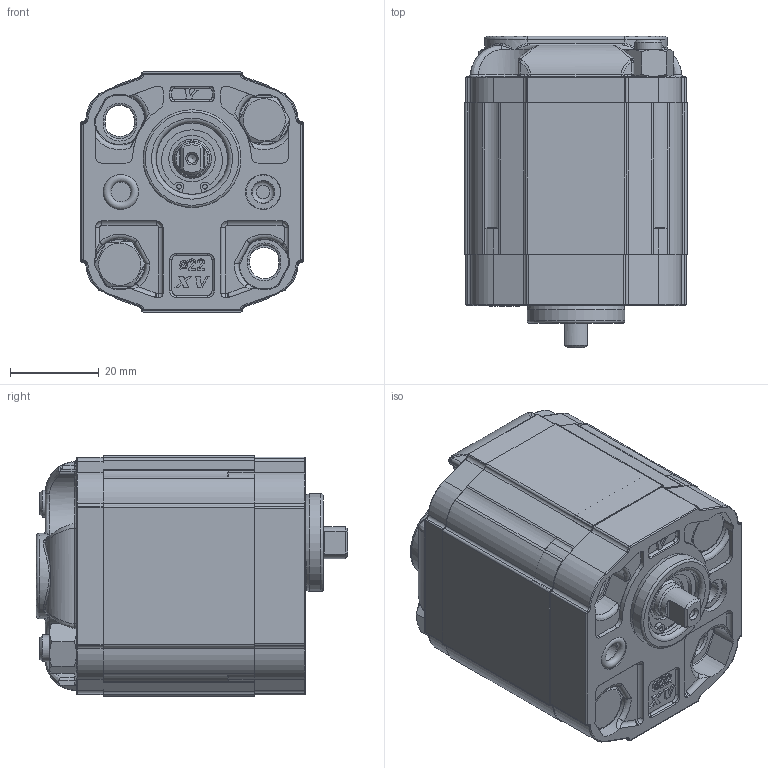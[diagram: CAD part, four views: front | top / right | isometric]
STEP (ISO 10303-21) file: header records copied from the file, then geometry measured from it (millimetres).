
FILE_DESCRIPTION( ( 'Unknown' ), '1' );
FILE_NAME( 'P:/montaggio_easy/output/STP/X0P0623BZZB.stp', 'Unknown', ( 'Unknown' ), ( 'Unknown' ), 'PSStep 14.0', 'Unknown', ' ' );
FILE_SCHEMA( ( 'AUTOMOTIVE_DESIGN { 1 0 10303 214 1 1 1 1 }' ) );
Length unit declared in the file: millimetre
Products named in the file (5): Assem1; X0P23; 0B; X0ZZH34; XP017-B
Bounding box: 50 x 70 x 54 mm (x, y, z)
Surface area: 64831.2 mm2
Topology: 8 solids, 12 shells, 1788 faces, 4596 edges, 2860 vertices
Faces by surface type: plane 730, cylinder 550, torus 202, bspline 132, cone 80, extrusion 78, sphere 16
Full cylindrical faces by diameter (mm): 1.053 x4, 2 x2, 5 x4, 6 x4, 6.5 x4, 7.16 x2, 7.5 x4, 7.9 x6, 7.92 x2, 8 x4, 9.318 x2, 10 x4, 10.445 x2, 11 x2, 11.445 x2, 14 x2, 16 x2, 16.2 x2, 16.8 x2, 22 x2
Entity records: 38991 total; most frequent: CARTESIAN_POINT 10521, DIRECTION 4474, ORIENTED_EDGE 4388, EDGE_CURVE 2194, AXIS2_PLACEMENT_3D 1660, VERTEX_POINT 1401, VECTOR 1154, LINE 1115
